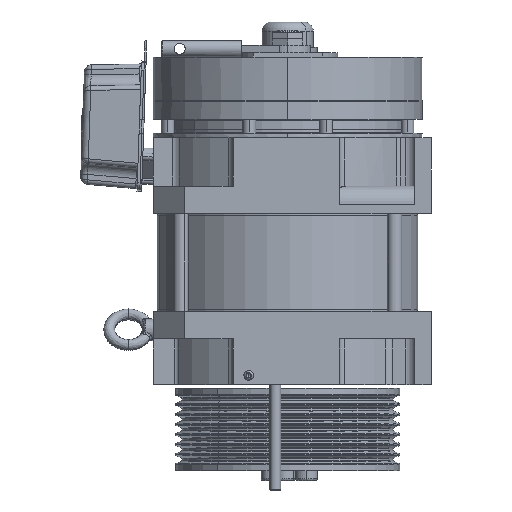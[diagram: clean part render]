
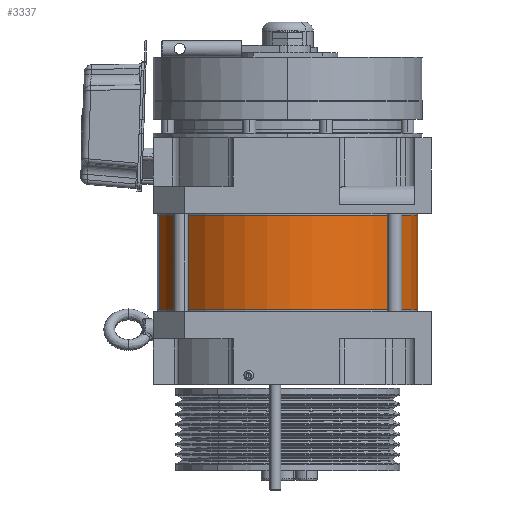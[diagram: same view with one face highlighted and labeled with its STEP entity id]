
A CAD part, left-side view. The second image highlights one B-rep face of the part: STEP entity #3337.
In plain terms, the highlighted cylindrical face has radius 142.5 mm (diameter 285 mm), a partial arc.
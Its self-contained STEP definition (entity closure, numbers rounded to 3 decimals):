
#945 = DIRECTION ( 'NONE',  ( 0., 0., -1. ) ) ;
#1638 = LINE ( 'NONE', #46594, #39778 ) ;
#2777 = ORIENTED_EDGE ( 'NONE', *, *, #14288, .F. ) ;
#3337 = ADVANCED_FACE ( 'NONE', ( #20455 ), #12129, .T. ) ;
#4895 = CARTESIAN_POINT ( 'NONE',  ( 142.5, 0., 26. ) ) ;
#5131 = CARTESIAN_POINT ( 'NONE',  ( -142.5, 0., 26. ) ) ;
#8643 = DIRECTION ( 'NONE',  ( -1., 0., 0. ) ) ;
#10412 = VECTOR ( 'NONE', #30497, 1000. ) ;
#12091 = CARTESIAN_POINT ( 'NONE',  ( 0., 0., 129. ) ) ;
#12129 = CYLINDRICAL_SURFACE ( 'NONE', #23000, 142.5 ) ;
#13472 = EDGE_CURVE ( 'NONE', #39984, #24448, #45631, .T. ) ;
#13683 = CARTESIAN_POINT ( 'NONE',  ( -142.5, 0., 129. ) ) ;
#14288 = EDGE_CURVE ( 'NONE', #41424, #24448, #44300, .T. ) ;
#14459 = ORIENTED_EDGE ( 'NONE', *, *, #13472, .T. ) ;
#17344 = ORIENTED_EDGE ( 'NONE', *, *, #36840, .F. ) ;
#20455 = FACE_OUTER_BOUND ( 'NONE', #25233, .T. ) ;
#20787 = ORIENTED_EDGE ( 'NONE', *, *, #31578, .F. ) ;
#23000 = AXIS2_PLACEMENT_3D ( 'NONE', #31142, #42680, #31317 ) ;
#24448 = VERTEX_POINT ( 'NONE', #5131 ) ;
#25233 = EDGE_LOOP ( 'NONE', ( #17344, #20787, #14459, #2777 ) ) ;
#27419 = DIRECTION ( 'NONE',  ( 0., 0., -1. ) ) ;
#29584 = AXIS2_PLACEMENT_3D ( 'NONE', #31426, #27419, #8643 ) ;
#30497 = DIRECTION ( 'NONE',  ( 0., 0., -1. ) ) ;
#31142 = CARTESIAN_POINT ( 'NONE',  ( 0., 0., 155. ) ) ;
#31317 = DIRECTION ( 'NONE',  ( -1., 0., 0. ) ) ;
#31394 = DIRECTION ( 'NONE',  ( 1., 0., 0. ) ) ;
#31426 = CARTESIAN_POINT ( 'NONE',  ( 0., 0., 26. ) ) ;
#31578 = EDGE_CURVE ( 'NONE', #39984, #39372, #32475, .T. ) ;
#32475 = CIRCLE ( 'NONE', #38205, 142.5 ) ;
#34633 = CARTESIAN_POINT ( 'NONE',  ( 142.5, 0., 129. ) ) ;
#36840 = EDGE_CURVE ( 'NONE', #39372, #41424, #1638, .T. ) ;
#38180 = CARTESIAN_POINT ( 'NONE',  ( -142.5, 0., 155. ) ) ;
#38205 = AXIS2_PLACEMENT_3D ( 'NONE', #12091, #42424, #31394 ) ;
#39372 = VERTEX_POINT ( 'NONE', #34633 ) ;
#39778 = VECTOR ( 'NONE', #945, 1000. ) ;
#39984 = VERTEX_POINT ( 'NONE', #13683 ) ;
#41424 = VERTEX_POINT ( 'NONE', #4895 ) ;
#42424 = DIRECTION ( 'NONE',  ( 0., 0., 1. ) ) ;
#42680 = DIRECTION ( 'NONE',  ( 0., 0., -1. ) ) ;
#44300 = CIRCLE ( 'NONE', #29584, 142.5 ) ;
#45631 = LINE ( 'NONE', #38180, #10412 ) ;
#46594 = CARTESIAN_POINT ( 'NONE',  ( 142.5, 0., 155. ) ) ;
